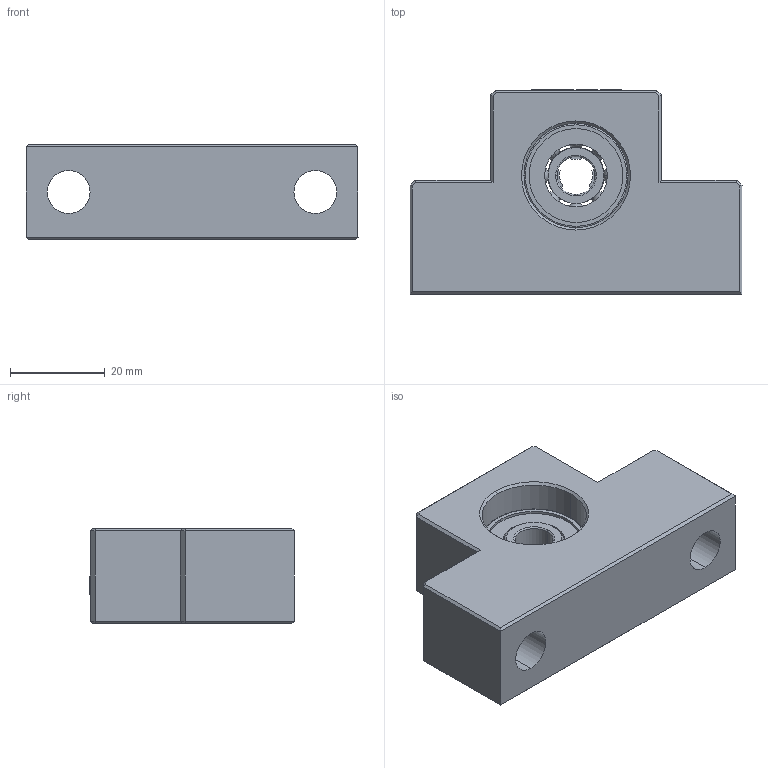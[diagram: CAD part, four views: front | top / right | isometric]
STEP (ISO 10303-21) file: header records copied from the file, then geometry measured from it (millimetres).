
FILE_DESCRIPTION (( 'STEP AP214' ), '1' );
FILE_NAME ('7.4033 EF10.STEP', '2026-03-06T08:02:57', ( '' ), ( '' ), 'SwSTEP 2.0', 'SolidWorks 2025', '' );
FILE_SCHEMA (( 'AUTOMOTIVE_DESIGN' ));
Length unit declared in the file: millimetre
Products named in the file (1): 7.4033 EF10
Bounding box: 70 x 43.1 x 20 mm (x, y, z)
Volume: 38024.4 mm3; surface area: 13711.1 mm2
Topology: 3 solids, 3 shells, 266 faces, 828 edges, 528 vertices
Faces by surface type: plane 99, sphere 66, bspline 51, cylinder 46, cone 4
Entity records: 15258 total; most frequent: CARTESIAN_POINT 7003, ORIENTED_EDGE 1564, DIRECTION 1162, EDGE_CURVE 782, VERTEX_POINT 514, AXIS2_PLACEMENT_3D 460, EDGE_LOOP 298, B_SPLINE_CURVE_WITH_KNOTS 270
